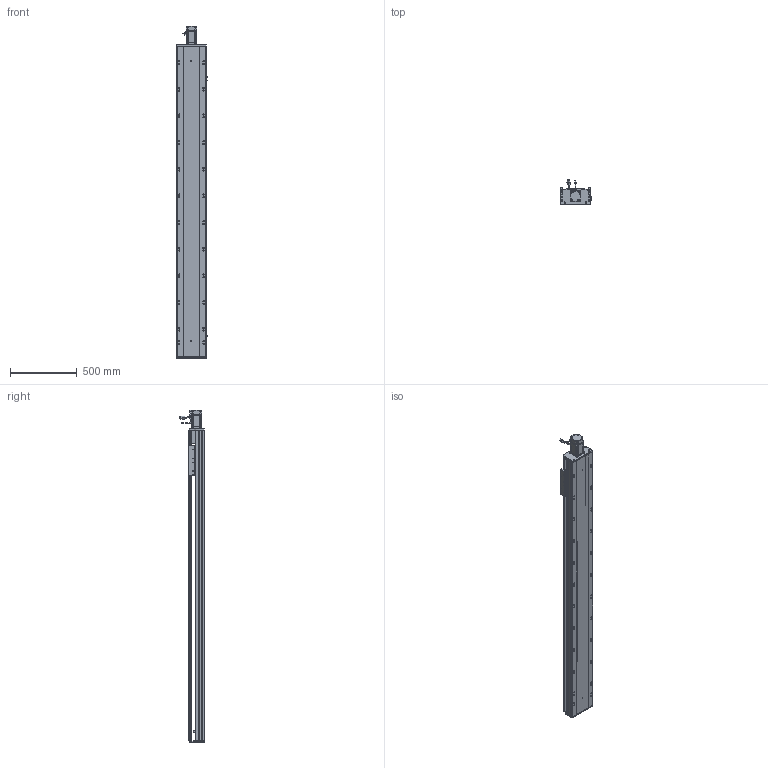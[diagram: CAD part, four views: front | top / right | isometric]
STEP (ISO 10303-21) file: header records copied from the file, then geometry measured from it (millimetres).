
FILE_DESCRIPTION (( 'STEP AP203' ), '1' );
FILE_NAME ('RY220-L2525-800-MK-邧嶺.SLDASM_1900.step', '2022-08-06T08:58:28', ( '' ), ( '' ), 'SwSTEP 2.0', 'SolidWorks 2016', '' );
FILE_SCHEMA (( 'CONFIG_CONTROL_DESIGN' ));
Length unit declared in the file: millimetre
Products named in the file (12): RY220綴裔啣; 滅袉蝶18-15; RY220半封闭25-32螺母铝滑块; RY220菁釱MK-800-邧嶺_1900; 覜茼ん672; RY220-L2525-800-MK-邧嶺.SLDASM_1900; 怢湛750W_ECMA-CX0807ES; RY220ヶ裔啣; 滅袉蝶18-12; RY220电机支撑座FK20（PCD90M6）; RY220-800-奻裔啣-MK_1900; RY220-俋离672覜茼んえ
Assembly tree (15 placements, depth 2):
  RY220-L2525-800-MK-邧嶺.SLDASM_1900
    RY220菁釱MK-800-邧嶺_1900
    RY220电机支撑座FK20（PCD90M6）
    怢湛750W_ECMA-CX0807ES
    滅袉蝶18-12  x2
    RY220ヶ裔啣
    RY220綴裔啣
    覜茼ん672  x3
    RY220半封闭25-32螺母铝滑块
    RY220-800-奻裔啣-MK_1900
    RY220-俋离672覜茼んえ
    滅袉蝶18-15  x2
Bounding box: 238.7 x 187.27 x 2490.3 mm (x, y, z)
Volume: 18371750.8 mm3; surface area: 5394622.3 mm2
Topology: 16 solids, 16 shells, 2424 faces, 6730 edges, 4216 vertices
Faces by surface type: cylinder 1134, plane 915, cone 313, bspline 36, sphere 16, torus 10
Entity records: 79912 total; most frequent: CARTESIAN_POINT 22541, ORIENTED_EDGE 11872, DIRECTION 11379, EDGE_CURVE 5936, AXIS2_PLACEMENT_3D 4057, VERTEX_POINT 3872, LINE 3265, VECTOR 3265
